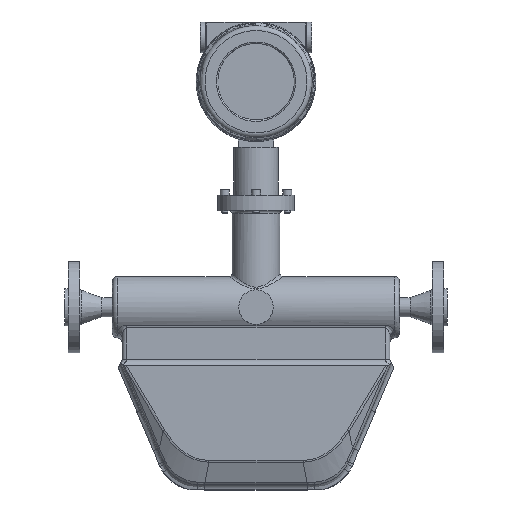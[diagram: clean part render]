
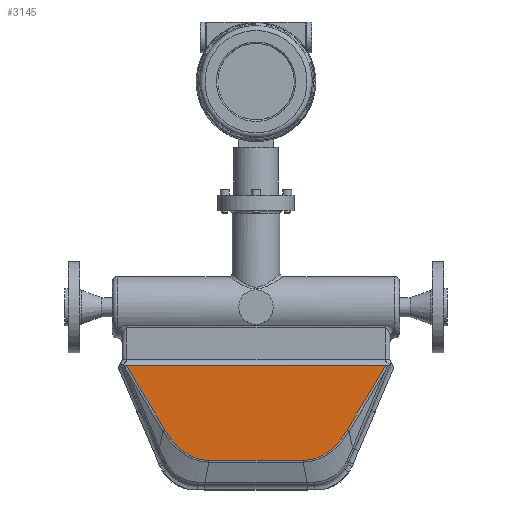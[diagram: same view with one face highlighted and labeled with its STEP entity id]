
A CAD part, top view. The second image highlights one B-rep face of the part: STEP entity #3145.
In plain terms, the highlighted planar face has unit normal (0, 0, 1).
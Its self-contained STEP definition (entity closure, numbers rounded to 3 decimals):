
#3145=ADVANCED_FACE('',(#7606),#7608,.T.);
#7606=FACE_BOUND('',#7607,.T.);
#7607=EDGE_LOOP('',(#10997,#10998,#10999,#11000,#11001,#11002));
#7608=PLANE('',#7609);
#7609=AXIS2_PLACEMENT_3D('',#7610,#7611,#7612);
#7610=CARTESIAN_POINT('',(-74.943,-290.986,815.75));
#7611=DIRECTION('',(-0.,0.,1.));
#7612=DIRECTION('',(1.,0.,0.));
#10997=ORIENTED_EDGE('',*,*,#12299,.T.);
#10998=ORIENTED_EDGE('',*,*,#12300,.T.);
#10999=ORIENTED_EDGE('',*,*,#12255,.T.);
#11000=ORIENTED_EDGE('',*,*,#12296,.F.);
#11001=ORIENTED_EDGE('',*,*,#12301,.F.);
#11002=ORIENTED_EDGE('',*,*,#12302,.T.);
#12255=EDGE_CURVE('',#13824,#13822,#13825,.T.);
#12296=EDGE_CURVE('',#13897,#13822,#13898,.T.);
#12299=EDGE_CURVE('',#13902,#13903,#13904,.T.);
#12300=EDGE_CURVE('',#13903,#13824,#13905,.T.);
#12301=EDGE_CURVE('',#13906,#13897,#13907,.T.);
#12302=EDGE_CURVE('',#13906,#13902,#13908,.T.);
#13822=VERTEX_POINT('',#19324);
#13824=VERTEX_POINT('',#19343);
#13825=LINE('',#19344,#19345);
#13897=VERTEX_POINT('',#19955);
#13898=LINE('',#19956,#19957);
#13902=VERTEX_POINT('',#19967);
#13903=VERTEX_POINT('',#19968);
#13904=B_SPLINE_CURVE_WITH_KNOTS('',3,
(#19969,#19970,#19971,#19972,#19973,#19974,#19975,#19976,#19977,#19978,#19979,#19980,
#19981,#19982,#19983,#19984,#19985,#19986,#19987,#19988),
.UNSPECIFIED.,.F.,.F.,
(4,2,2,2,2,2,2,2,2,4),
(0.,0.114,0.226,0.337,0.449,0.566,
0.689,0.82,0.965,1.),
.UNSPECIFIED.);
#13905=LINE('',#19989,#19990);
#13906=VERTEX_POINT('',#19992);
#13907=B_SPLINE_CURVE_WITH_KNOTS('',3,
(#19993,#19994,#19995,#19996,#19997,#19998,#19999,#20000,#20001,#20002,#20003,#20004,
#20005,#20006,#20007,#20008,#20009,#20010,#20011,#20012),
.UNSPECIFIED.,.F.,.F.,
(4,2,2,2,2,2,2,2,2,4),
(0.,0.114,0.226,0.337,0.449,0.566,
0.689,0.82,0.965,1.),
.UNSPECIFIED.);
#13908=LINE('',#20013,#20014);
#19324=CARTESIAN_POINT('',(-210.551,-160.986,815.75));
#19343=CARTESIAN_POINT('',(60.665,-160.986,815.75));
#19344=CARTESIAN_POINT('',(60.665,-160.986,815.75));
#19345=VECTOR('',#19346,1.);
#19346=DIRECTION('',(-1.,0.,0.));
#19955=CARTESIAN_POINT('',(-170.085,-228.526,815.75));
#19956=CARTESIAN_POINT('',(-170.085,-228.526,815.75));
#19957=VECTOR('',#19958,1.);
#19958=DIRECTION('',(-0.514,0.858,0.));
#19967=CARTESIAN_POINT('',(-25.753,-260.024,815.75));
#19968=CARTESIAN_POINT('',(20.198,-228.526,815.75));
#19969=CARTESIAN_POINT('',(-25.753,-260.024,815.75));
#19970=CARTESIAN_POINT('',(-23.75,-259.955,815.75));
#19971=CARTESIAN_POINT('',(-21.747,-259.887,815.75));
#19972=CARTESIAN_POINT('',(-17.856,-259.339,815.75));
#19973=CARTESIAN_POINT('',(-15.953,-258.938,815.75));
#19974=CARTESIAN_POINT('',(-12.214,-257.87,815.75));
#19975=CARTESIAN_POINT('',(-10.37,-257.205,815.75));
#19976=CARTESIAN_POINT('',(-6.719,-255.602,815.75));
#19977=CARTESIAN_POINT('',(-4.906,-254.657,815.75));
#19978=CARTESIAN_POINT('',(-1.291,-252.466,815.75));
#19979=CARTESIAN_POINT('',(0.516,-251.206,815.75));
#19980=CARTESIAN_POINT('',(4.137,-248.334,815.75));
#19981=CARTESIAN_POINT('',(5.956,-246.699,815.75));
#19982=CARTESIAN_POINT('',(9.62,-243.006,815.75));
#19983=CARTESIAN_POINT('',(11.466,-240.912,815.75));
#19984=CARTESIAN_POINT('',(15.197,-236.194,815.75));
#19985=CARTESIAN_POINT('',(17.078,-233.522,815.75));
#19986=CARTESIAN_POINT('',(19.325,-229.965,815.75));
#19987=CARTESIAN_POINT('',(19.761,-229.246,815.75));
#19988=CARTESIAN_POINT('',(20.198,-228.526,815.75));
#19989=CARTESIAN_POINT('',(20.198,-228.526,815.75));
#19990=VECTOR('',#19991,1.);
#19991=DIRECTION('',(0.514,0.858,0.));
#19992=CARTESIAN_POINT('',(-124.134,-260.024,815.75));
#19993=CARTESIAN_POINT('',(-124.134,-260.024,815.75));
#19994=CARTESIAN_POINT('',(-126.137,-259.955,815.75));
#19995=CARTESIAN_POINT('',(-128.14,-259.887,815.75));
#19996=CARTESIAN_POINT('',(-132.031,-259.339,815.75));
#19997=CARTESIAN_POINT('',(-133.934,-258.938,815.75));
#19998=CARTESIAN_POINT('',(-137.673,-257.87,815.75));
#19999=CARTESIAN_POINT('',(-139.517,-257.205,815.75));
#20000=CARTESIAN_POINT('',(-143.168,-255.602,815.75));
#20001=CARTESIAN_POINT('',(-144.981,-254.657,815.75));
#20002=CARTESIAN_POINT('',(-148.596,-252.466,815.75));
#20003=CARTESIAN_POINT('',(-150.402,-251.206,815.75));
#20004=CARTESIAN_POINT('',(-154.024,-248.334,815.75));
#20005=CARTESIAN_POINT('',(-155.843,-246.699,815.75));
#20006=CARTESIAN_POINT('',(-159.507,-243.006,815.75));
#20007=CARTESIAN_POINT('',(-161.353,-240.912,815.75));
#20008=CARTESIAN_POINT('',(-165.084,-236.194,815.75));
#20009=CARTESIAN_POINT('',(-166.965,-233.522,815.75));
#20010=CARTESIAN_POINT('',(-169.212,-229.965,815.75));
#20011=CARTESIAN_POINT('',(-169.648,-229.246,815.75));
#20012=CARTESIAN_POINT('',(-170.085,-228.526,815.75));
#20013=CARTESIAN_POINT('',(-124.134,-260.024,815.75));
#20014=VECTOR('',#20015,1.);
#20015=DIRECTION('',(1.,0.,0.));
